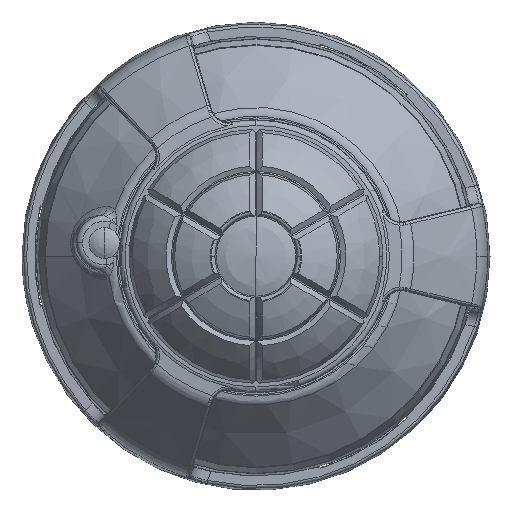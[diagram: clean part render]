
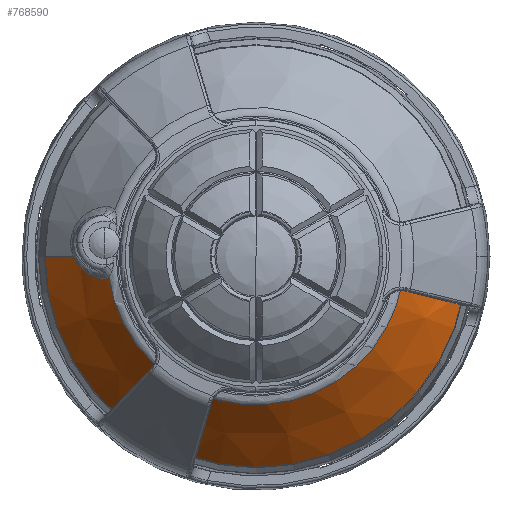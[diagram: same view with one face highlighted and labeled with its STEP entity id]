
A CAD part, front view. The second image highlights one B-rep face of the part: STEP entity #768590.
In plain terms, the highlighted conical face has half-angle 41.459 degrees and reference radius 17.888 mm.
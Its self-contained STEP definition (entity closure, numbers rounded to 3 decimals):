
#571860=CARTESIAN_POINT('',(0.,-5.365,
0.));
#571870=DIRECTION('',(0.,-1.,0.));
#571880=DIRECTION('',(-1.,0.,0.));
#571890=AXIS2_PLACEMENT_3D('',#571860,#571870,#571880);
#571900=CIRCLE('',#571890,17.75);
#571930=CARTESIAN_POINT('',(-17.75,-5.365,
0.));
#571940=VERTEX_POINT('',#571930);
#572100=CARTESIAN_POINT('',(17.75,-5.365,
0.));
#572110=VERTEX_POINT('',#572100);
#572190=CARTESIAN_POINT('',(0.,-5.208,
0.));
#572200=DIRECTION('',(0.,1.,0.));
#572210=DIRECTION('',(1.,0.,0.));
#572220=AXIS2_PLACEMENT_3D('',#572190,#572200,#572210);
#572230=CONICAL_SURFACE('',#572220,17.888,0.724);
#572240=CARTESIAN_POINT('',(17.888,-5.208,
0.));
#572250=DIRECTION('',(0.662,0.749,
0.));
#572260=VECTOR('',#572250,27.018);
#572270=LINE('',#572240,#572260);
#572280=CARTESIAN_POINT('',(12.519,-11.286,
0.));
#572290=VERTEX_POINT('',#572280);
#572300=EDGE_CURVE('',#572290,#572110,#572270,.T.);
#572320=CARTESIAN_POINT('',(0.,-11.286,
0.));
#572330=DIRECTION('',(0.,1.,0.));
#572340=DIRECTION('',(1.,0.,0.));
#572350=AXIS2_PLACEMENT_3D('',#572320,#572330,#572340);
#572360=CIRCLE('',#572350,12.519);
#572590=CARTESIAN_POINT('',(-13.063,-10.508,
-1.942));
#572600=CARTESIAN_POINT('',(-13.157,-10.405,
-1.922));
#572610=CARTESIAN_POINT('',(-13.328,-10.221,
-1.879));
#572620=CARTESIAN_POINT('',(-13.563,-9.97,
-1.798));
#572630=CARTESIAN_POINT('',(-13.768,-9.752,
-1.711));
#572640=CARTESIAN_POINT('',(-13.971,-9.538,
-1.609));
#572650=CARTESIAN_POINT('',(-14.143,-9.358,
-1.507));
#572660=CARTESIAN_POINT('',(-14.294,-9.2,
-1.404));
#572670=CARTESIAN_POINT('',(-14.407,-9.081,
-1.319));
#572680=CARTESIAN_POINT('',(-14.518,-8.965,
-1.227));
#572690=CARTESIAN_POINT('',(-14.618,-8.861,
-1.137));
#572700=CARTESIAN_POINT('',(-14.707,-8.767,
-1.049));
#572710=CARTESIAN_POINT('',(-14.794,-8.676,
-0.956));
#572720=CARTESIAN_POINT('',(-14.879,-8.587,
-0.858));
#572730=CARTESIAN_POINT('',(-14.968,-8.493,
-0.746));
#572740=CARTESIAN_POINT('',(-15.053,-8.403,
-0.628));
#572750=CARTESIAN_POINT('',(-15.134,-8.317,
-0.504));
#572760=CARTESIAN_POINT('',(-15.21,-8.235,
-0.374));
#572770=CARTESIAN_POINT('',(-15.28,-8.159,
-0.239));
#572780=CARTESIAN_POINT('',(-15.345,-8.087,
-0.098));
#572790=CARTESIAN_POINT('',(-15.406,-8.019,
0.054));
#572800=CARTESIAN_POINT('',(-15.459,-7.957,
0.212));
#572810=CARTESIAN_POINT('',(-15.502,-7.905,
0.37));
#572820=CARTESIAN_POINT('',(-15.536,-7.861,
0.525));
#572830=CARTESIAN_POINT('',(-15.562,-7.824,
0.682));
#572840=CARTESIAN_POINT('',(-15.581,-7.794,
0.85));
#572850=CARTESIAN_POINT('',(-15.59,-7.772,
1.02));
#572860=CARTESIAN_POINT('',(-15.59,-7.759,
1.191));
#572870=CARTESIAN_POINT('',(-15.58,-7.754,
1.362));
#572880=CARTESIAN_POINT('',(-15.56,-7.759,
1.532));
#572890=CARTESIAN_POINT('',(-15.531,-7.772,
1.701));
#572900=CARTESIAN_POINT('',(-15.492,-7.794,
1.866));
#572910=CARTESIAN_POINT('',(-15.445,-7.824,
2.028));
#572920=CARTESIAN_POINT('',(-15.39,-7.862,
2.186));
#572930=CARTESIAN_POINT('',(-15.326,-7.908,
2.338));
#572940=CARTESIAN_POINT('',(-15.256,-7.961,
2.485));
#572950=CARTESIAN_POINT('',(-15.179,-8.021,
2.626));
#572960=CARTESIAN_POINT('',(-15.096,-8.086,
2.76));
#572970=CARTESIAN_POINT('',(-15.007,-8.158,
2.888));
#572980=CARTESIAN_POINT('',(-14.914,-8.235,
3.009));
#572990=CARTESIAN_POINT('',(-14.817,-8.316,
3.124));
#573000=CARTESIAN_POINT('',(-14.716,-8.402,
3.232));
#573010=CARTESIAN_POINT('',(-14.611,-8.493,
3.334));
#573020=CARTESIAN_POINT('',(-14.504,-8.587,
3.429));
#573030=CARTESIAN_POINT('',(-14.404,-8.676,
3.511));
#573040=CARTESIAN_POINT('',(-14.302,-8.767,
3.587));
#573050=CARTESIAN_POINT('',(-14.198,-8.861,
3.658));
#573060=CARTESIAN_POINT('',(-14.084,-8.965,
3.73));
#573070=CARTESIAN_POINT('',(-13.959,-9.081,
3.801));
#573080=CARTESIAN_POINT('',(-13.833,-9.2,
3.865));
#573090=CARTESIAN_POINT('',(-13.666,-9.358,
3.94));
#573100=CARTESIAN_POINT('',(-13.479,-9.538,
4.011));
#573110=CARTESIAN_POINT('',(-13.262,-9.752,
4.076));
#573120=CARTESIAN_POINT('',(-13.045,-9.97,
4.126));
#573130=CARTESIAN_POINT('',(-12.799,-10.221,
4.165));
#573140=CARTESIAN_POINT('',(-12.624,-10.405,
4.178));
#573150=CARTESIAN_POINT('',(-12.527,-10.508,
4.181));
#573160=B_SPLINE_CURVE_WITH_KNOTS('',3,(#572590,#572600,#572610,#572620,
#572630,#572640,#572650,#572660,#572670,#572680,#572690,#572700,#572710,
#572720,#572730,#572740,#572750,#572760,#572770,#572780,#572790,#572800,
#572810,#572820,#572830,#572840,#572850,#572860,#572870,#572880,#572890,
#572900,#572910,#572920,#572930,#572940,#572950,#572960,#572970,#572980,
#572990,#573000,#573010,#573020,#573030,#573040,#573050,#573060,#573070,
#573080,#573090,#573100,#573110,#573120,#573130,#573140,#573150),
.UNSPECIFIED.,.F.,.F.,(4,1,1,1,1,1,1,1,1,1,1,1,1,1,1,1,1,1,1,1,1,1,1,1,1
,1,1,1,1,1,1,1,1,1,1,1,1,1,1,1,1,1,1,1,1,1,1,1,1,1,1,1,1,1,4),(0.,
0.039,0.07,0.097,0.124
,0.156,0.171,0.191,0.206
,0.222,0.238,0.249,0.265,
0.281,0.296,0.312,0.328,
0.343,0.359,0.374,0.392,
0.408,0.421,0.437,0.453,
0.469,0.484,0.5,0.516,
0.531,0.547,0.563,0.578,
0.594,0.61,0.625,0.641,
0.657,0.672,0.688,0.704,
0.719,0.735,0.751,0.762,
0.778,0.794,0.809,0.829,
0.844,0.876,0.903,0.93,
0.961,1.),.UNSPECIFIED.);
#573170=CARTESIAN_POINT('',(-15.384,-8.043,
0.));
#573180=VERTEX_POINT('',#573170);
#573210=CARTESIAN_POINT('',(-17.889,-5.208,
0.));
#573220=DIRECTION('',(-0.662,0.749,
0.));
#573230=VECTOR('',#573220,27.018);
#573240=LINE('',#573210,#573230);
#573250=EDGE_CURVE('',#573180,#571940,#573240,.T.);
#580030=CARTESIAN_POINT('',(-13.063,-10.508,
-1.942));
#580040=VERTEX_POINT('',#580030);
#580070=EDGE_CURVE('',#580040,#573180,#573160,.T.);
#581320=CARTESIAN_POINT('',(-12.391,-11.286,
-1.789));
#581330=VERTEX_POINT('',#581320);
#582890=EDGE_CURVE('',#572290,#581330,#572360,.T.);
#583990=CARTESIAN_POINT('',(-12.391,-11.286,
-1.789));
#584000=CARTESIAN_POINT('',(-12.406,-11.266,
-1.801));
#584010=CARTESIAN_POINT('',(-12.434,-11.232,
-1.822));
#584020=CARTESIAN_POINT('',(-12.487,-11.167,
-1.856));
#584030=CARTESIAN_POINT('',(-12.55,-11.09,
-1.89));
#584040=CARTESIAN_POINT('',(-12.63,-10.996,
-1.922));
#584050=CARTESIAN_POINT('',(-12.709,-10.904,
-1.944));
#584060=CARTESIAN_POINT('',(-12.788,-10.813,
-1.957));
#584070=CARTESIAN_POINT('',(-12.87,-10.72,
-1.963));
#584080=CARTESIAN_POINT('',(-12.961,-10.618,
-1.96));
#584090=CARTESIAN_POINT('',(-13.028,-10.546,
-1.95));
#584100=CARTESIAN_POINT('',(-13.063,-10.508,
-1.942));
#584110=B_SPLINE_CURVE_WITH_KNOTS('',3,(#583990,#584000,#584010,#584020,
#584030,#584040,#584050,#584060,#584070,#584080,#584090,#584100),
.UNSPECIFIED.,.F.,.F.,(4,1,1,1,1,1,1,1,1,4),(0.,0.078,
0.14,0.258,0.375,0.501,
0.61,0.719,0.852,1.),.UNSPECIFIED.);
#584120=EDGE_CURVE('',#581330,#580040,#584110,.T.);
#768500=ORIENTED_EDGE('',*,*,#572300,.F.);
#768510=EDGE_CURVE('',#571940,#572110,#571900,.T.);
#768520=ORIENTED_EDGE('',*,*,#768510,.T.);
#768530=ORIENTED_EDGE('',*,*,#573250,.T.);
#768540=ORIENTED_EDGE('',*,*,#580070,.T.);
#768550=ORIENTED_EDGE('',*,*,#584120,.T.);
#768560=ORIENTED_EDGE('',*,*,#582890,.T.);
#768570=EDGE_LOOP('',(#768560,#768550,#768540,#768530,#768520,#768500));
#768580=FACE_OUTER_BOUND('',#768570,.T.);
#768590=ADVANCED_FACE('',(#768580),#572230,.T.);
